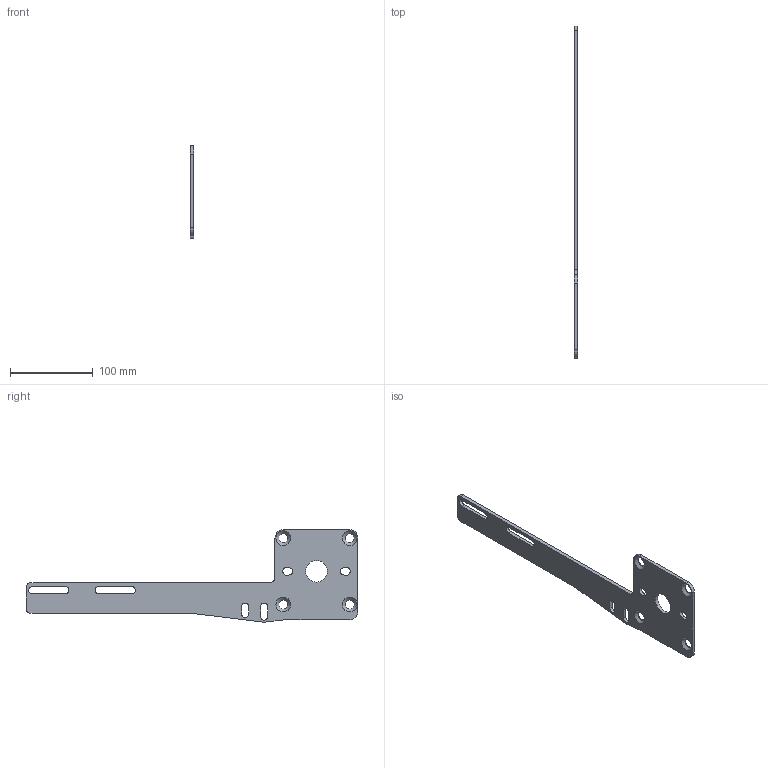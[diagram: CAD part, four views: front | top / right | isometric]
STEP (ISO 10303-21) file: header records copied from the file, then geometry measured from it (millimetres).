
FILE_DESCRIPTION(/* description */ ('MOUNTING PLATE WITH CONNECTION STRIP, HEIGHT DIFFERENCE'),/* implementation_level */ '2;1');
FILE_NAME(/* name */ '500-3118L.stp',/* time_stamp */ '2022-09-22T08:54:49+02:00',/* author */ ('ML'),/* organization */ ('CARRYLINE'),/* preprocessor_version */ 'ST-DEVELOPER v19.2',/* originating_system */ 'Autodesk Inventor 2023',/* authorisation */ '');
FILE_SCHEMA (('AUTOMOTIVE_DESIGN { 1 0 10303 214 3 1 1 }'));
Length unit declared in the file: millimetre
Products named in the file (1): 500-3118L
Bounding box: 4 x 400 x 111.25 mm (x, y, z)
Volume: 80384.8 mm3; surface area: 46799.9 mm2
Topology: 1 solids, 1 shells, 49 faces, 137 edges, 90 vertices
Faces by surface type: cylinder 26, plane 19, cone 4
Full cylindrical faces by diameter (mm): 11 x4, 26 x1
Entity records: 1740 total; most frequent: DIRECTION 293, CARTESIAN_POINT 277, ORIENTED_EDGE 274, EDGE_CURVE 137, AXIS2_PLACEMENT_3D 106, VERTEX_POINT 90, LINE 81, VECTOR 81
